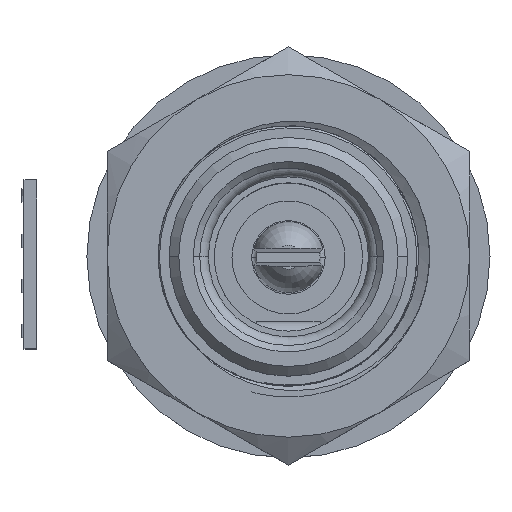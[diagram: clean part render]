
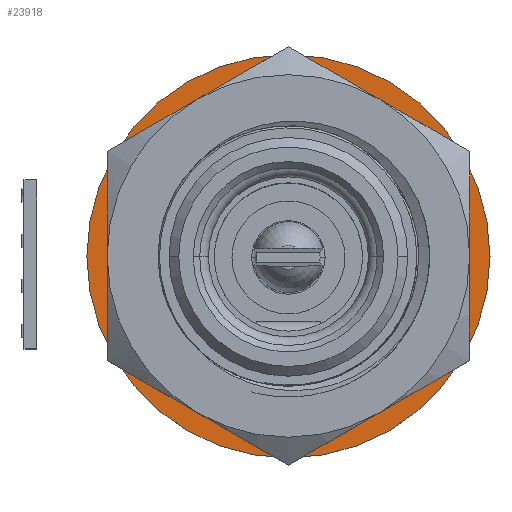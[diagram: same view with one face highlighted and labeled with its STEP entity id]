
A CAD part, top view. The second image highlights one B-rep face of the part: STEP entity #23918.
In plain terms, the highlighted planar face has unit normal (0, 0, 1).
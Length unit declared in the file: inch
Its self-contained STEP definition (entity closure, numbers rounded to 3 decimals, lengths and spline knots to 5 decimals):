
#23831 = EDGE_LOOP ( 'NONE', ( #23832, #23833 ) ) ;
#23832 = ORIENTED_EDGE ( 'NONE', *, *, #23901, .T. ) ;
#23833 = ORIENTED_EDGE ( 'NONE', *, *, #23834, .T. ) ;
#23834 = EDGE_CURVE ( 'NONE', #23899, #23902, #39314, .T. ) ;
#23899 = VERTEX_POINT ( 'NONE', #39376 ) ;
#23901 = EDGE_CURVE ( 'NONE', #23902, #23899, #39375, .T. ) ;
#23902 = VERTEX_POINT ( 'NONE', #39370 ) ;
#23918 = ADVANCED_FACE ( 'NONE', ( #39481, #39475 ), #39474, .F. ) ;
#23920 = EDGE_LOOP ( 'NONE', ( #23921, #23924 ) ) ;
#23921 = ORIENTED_EDGE ( 'NONE', *, *, #23922, .F. ) ;
#23922 = EDGE_CURVE ( 'NONE', #23948, #23945, #39468, .T. ) ;
#23924 = ORIENTED_EDGE ( 'NONE', *, *, #23947, .F. ) ;
#23945 = VERTEX_POINT ( 'NONE', #39510 ) ;
#23947 = EDGE_CURVE ( 'NONE', #23945, #23948, #39449, .T. ) ;
#23948 = VERTEX_POINT ( 'NONE', #39444 ) ;
#39307 = DIRECTION ( 'NONE',  ( -1., 0., 0. ) ) ;
#39308 = DIRECTION ( 'NONE',  ( 0., 0., -1. ) ) ;
#39309 = CARTESIAN_POINT ( 'NONE',  ( 0., 0., 0.77 ) ) ;
#39310 = AXIS2_PLACEMENT_3D ( 'NONE', #39309, #39308, #39307 ) ;
#39314 = CIRCLE ( 'NONE', #39310, 0.2225 ) ;
#39370 = CARTESIAN_POINT ( 'NONE',  ( 0.2225, 0., 0.77 ) ) ;
#39371 = DIRECTION ( 'NONE',  ( -1., 0., 0. ) ) ;
#39372 = DIRECTION ( 'NONE',  ( 0., 0., -1. ) ) ;
#39373 = CARTESIAN_POINT ( 'NONE',  ( 0., 0., 0.77 ) ) ;
#39374 = AXIS2_PLACEMENT_3D ( 'NONE', #39373, #39372, #39371 ) ;
#39375 = CIRCLE ( 'NONE', #39374, 0.2225 ) ;
#39376 = CARTESIAN_POINT ( 'NONE',  ( -0.2225, 0., 0.77 ) ) ;
#39444 = CARTESIAN_POINT ( 'NONE',  ( 0.3125, 0., 0.77 ) ) ;
#39445 = DIRECTION ( 'NONE',  ( -1., 0., 0. ) ) ;
#39446 = DIRECTION ( 'NONE',  ( 0., 0., -1. ) ) ;
#39447 = CARTESIAN_POINT ( 'NONE',  ( 0., 0., 0.77 ) ) ;
#39448 = AXIS2_PLACEMENT_3D ( 'NONE', #39447, #39446, #39445 ) ;
#39449 = CIRCLE ( 'NONE', #39448, 0.3125 ) ;
#39465 = DIRECTION ( 'NONE',  ( -1., 0., 0. ) ) ;
#39466 = DIRECTION ( 'NONE',  ( 0., 0., -1. ) ) ;
#39467 = AXIS2_PLACEMENT_3D ( 'NONE', #39473, #39466, #39465 ) ;
#39468 = CIRCLE ( 'NONE', #39467, 0.3125 ) ;
#39469 = DIRECTION ( 'NONE',  ( -1., 0., 0. ) ) ;
#39470 = DIRECTION ( 'NONE',  ( 0., 0., -1. ) ) ;
#39471 = CARTESIAN_POINT ( 'NONE',  ( 0., 0., 0.77 ) ) ;
#39472 = AXIS2_PLACEMENT_3D ( 'NONE', #39471, #39470, #39469 ) ;
#39473 = CARTESIAN_POINT ( 'NONE',  ( 0., 0., 0.77 ) ) ;
#39474 = PLANE ( 'NONE',  #39472 ) ;
#39475 = FACE_BOUND ( 'NONE', #23831, .T. ) ;
#39481 = FACE_OUTER_BOUND ( 'NONE', #23920, .T. ) ;
#39510 = CARTESIAN_POINT ( 'NONE',  ( -0.3125, 0., 0.77 ) ) ;
